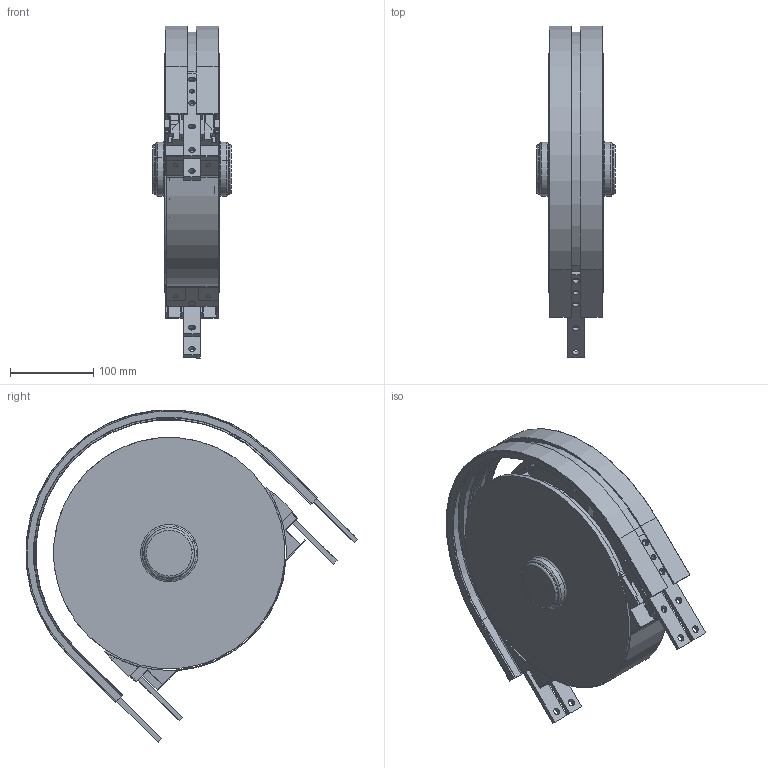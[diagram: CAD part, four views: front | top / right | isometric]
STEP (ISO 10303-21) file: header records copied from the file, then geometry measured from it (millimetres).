
FILE_DESCRIPTION (( 'STEP AP214' ), '1' );
FILE_NAME ('FKWB-180R150A.STEP', '2012-03-20T14:04:32', ( 'gs' ), ( 'Microsoft' ), 'SwSTEP 2.0', 'SolidWorks 2011', '' );
FILE_SCHEMA (( 'AUTOMOTIVE_DESIGN' ));
Length unit declared in the file: millimetre
Products named in the file (11): CP1007-180_Default; FKWB180R150-CB_Default; FACS-20X140_Default; FAEC-WH_Default; WH44001K_Default; WH278063_Default; WH63001_Default; FACS-20X140M-FK_Default; WH08001-FK_Default; WH63003_Default; FKWB-180R150A
Assembly tree (16 placements, depth 2):
  FKWB-180R150A
    CP1007-180_Default
    FAEC-WH_Default  x2
    WH63003_Default
    FACS-20X140M-FK_Default  x2
    WH63001_Default  x2
    FACS-20X140_Default  x2
    WH44001K_Default
    FKWB180R150-CB_Default
    WH278063_Default  x2
    WH08001-FK_Default  x2
Bounding box: 94.5 x 398.61 x 398.81 mm (x, y, z)
Volume: 1599733.1 mm3; surface area: 675222.2 mm2
Topology: 16 solids, 16 shells, 1494 faces, 4020 edges, 2655 vertices
Faces by surface type: plane 807, cylinder 350, bspline 236, torus 92, cone 9
Entity records: 33051 total; most frequent: CARTESIAN_POINT 12021, ORIENTED_EDGE 4492, DIRECTION 3914, EDGE_CURVE 2246, VERTEX_POINT 1477, LINE 1360, VECTOR 1360, AXIS2_PLACEMENT_3D 1277
